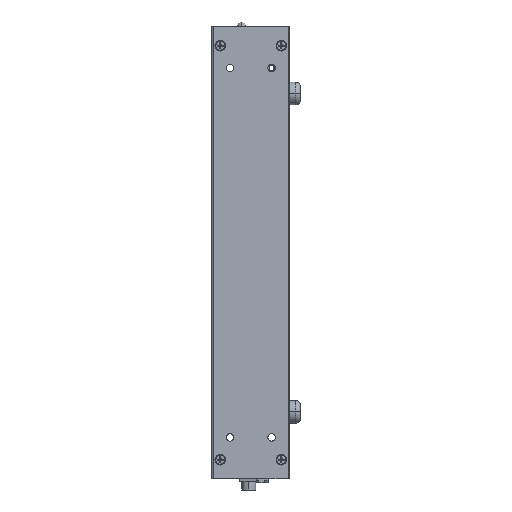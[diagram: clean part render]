
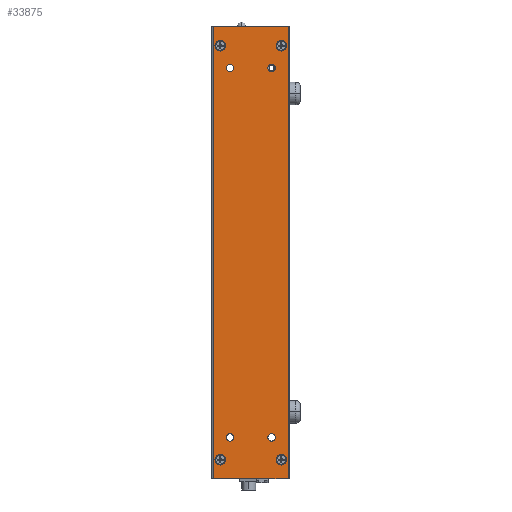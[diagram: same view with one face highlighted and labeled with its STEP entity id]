
A CAD part, left-side view. The second image highlights one B-rep face of the part: STEP entity #33875.
In plain terms, the highlighted planar face has unit normal (-1, 0, 0).
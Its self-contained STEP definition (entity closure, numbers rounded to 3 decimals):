
#4202=DIRECTION('',(0.,1.,0.));
#4203=VECTOR('',#4202,1.65);
#4204=CARTESIAN_POINT('',(-12.06,-1.69,-10.));
#4205=LINE('',#4204,#4203);
#4238=DIRECTION('',(0.,1.,0.));
#4239=VECTOR('',#4238,1.65);
#4240=CARTESIAN_POINT('',(-12.06,-1.69,0.));
#4241=LINE('',#4240,#4239);
#5495=DIRECTION('',(0.,0.,1.));
#5496=VECTOR('',#5495,10.);
#5497=CARTESIAN_POINT('',(-12.06,-0.04,-10.));
#5498=LINE('',#5497,#5496);
#5504=CARTESIAN_POINT('',(-12.06,-1.54,-0.422));
#5505=DIRECTION('',(1.,0.,0.));
#5506=DIRECTION('',(0.,-1.,0.));
#5507=AXIS2_PLACEMENT_3D('',#5504,#5505,#5506);
#5509=CARTESIAN_POINT('',(-12.06,-1.54,-0.422));
#5510=DIRECTION('',(1.,0.,0.));
#5511=DIRECTION('',(0.,1.,0.));
#5512=AXIS2_PLACEMENT_3D('',#5509,#5510,#5511);
#5514=CARTESIAN_POINT('',(-12.06,-0.19,-0.422));
#5515=DIRECTION('',(1.,0.,0.));
#5516=DIRECTION('',(0.,-1.,0.));
#5517=AXIS2_PLACEMENT_3D('',#5514,#5515,#5516);
#5519=CARTESIAN_POINT('',(-12.06,-0.19,-0.422));
#5520=DIRECTION('',(1.,0.,0.));
#5521=DIRECTION('',(0.,1.,0.));
#5522=AXIS2_PLACEMENT_3D('',#5519,#5520,#5521);
#5524=CARTESIAN_POINT('',(-12.06,-1.54,-9.578));
#5525=DIRECTION('',(1.,0.,0.));
#5526=DIRECTION('',(0.,-1.,0.));
#5527=AXIS2_PLACEMENT_3D('',#5524,#5525,#5526);
#5529=CARTESIAN_POINT('',(-12.06,-1.54,-9.578));
#5530=DIRECTION('',(1.,0.,0.));
#5531=DIRECTION('',(0.,1.,0.));
#5532=AXIS2_PLACEMENT_3D('',#5529,#5530,#5531);
#5534=CARTESIAN_POINT('',(-12.06,-0.19,-9.578));
#5535=DIRECTION('',(1.,0.,0.));
#5536=DIRECTION('',(0.,-1.,0.));
#5537=AXIS2_PLACEMENT_3D('',#5534,#5535,#5536);
#5539=CARTESIAN_POINT('',(-12.06,-0.19,-9.578));
#5540=DIRECTION('',(1.,0.,0.));
#5541=DIRECTION('',(0.,1.,0.));
#5542=AXIS2_PLACEMENT_3D('',#5539,#5540,#5541);
#5544=CARTESIAN_POINT('',(-12.06,-1.325,-0.915));
#5545=DIRECTION('',(1.,0.,0.));
#5546=DIRECTION('',(0.,0.,1.));
#5547=AXIS2_PLACEMENT_3D('',#5544,#5545,#5546);
#5549=CARTESIAN_POINT('',(-12.06,-1.325,-0.915));
#5550=DIRECTION('',(1.,0.,0.));
#5551=DIRECTION('',(0.,0.,-1.));
#5552=AXIS2_PLACEMENT_3D('',#5549,#5550,#5551);
#5554=CARTESIAN_POINT('',(-12.06,-0.405,-0.915));
#5555=DIRECTION('',(1.,0.,0.));
#5556=DIRECTION('',(0.,0.,1.));
#5557=AXIS2_PLACEMENT_3D('',#5554,#5555,#5556);
#5559=CARTESIAN_POINT('',(-12.06,-0.405,-0.915));
#5560=DIRECTION('',(1.,0.,0.));
#5561=DIRECTION('',(0.,0.,-1.));
#5562=AXIS2_PLACEMENT_3D('',#5559,#5560,#5561);
#5564=CARTESIAN_POINT('',(-12.06,-1.325,-9.085));
#5565=DIRECTION('',(1.,0.,0.));
#5566=DIRECTION('',(0.,0.,1.));
#5567=AXIS2_PLACEMENT_3D('',#5564,#5565,#5566);
#5569=CARTESIAN_POINT('',(-12.06,-1.325,-9.085));
#5570=DIRECTION('',(1.,0.,0.));
#5571=DIRECTION('',(0.,0.,-1.));
#5572=AXIS2_PLACEMENT_3D('',#5569,#5570,#5571);
#5574=CARTESIAN_POINT('',(-12.06,-0.405,-9.085));
#5575=DIRECTION('',(1.,0.,0.));
#5576=DIRECTION('',(0.,0.,1.));
#5577=AXIS2_PLACEMENT_3D('',#5574,#5575,#5576);
#5579=CARTESIAN_POINT('',(-12.06,-0.405,-9.085));
#5580=DIRECTION('',(1.,0.,0.));
#5581=DIRECTION('',(0.,0.,-1.));
#5582=AXIS2_PLACEMENT_3D('',#5579,#5580,#5581);
#5584=DIRECTION('',(0.,0.,1.));
#5585=VECTOR('',#5584,10.);
#5586=CARTESIAN_POINT('',(-12.06,-1.69,-10.));
#5587=LINE('',#5586,#5585);
#20621=CARTESIAN_POINT('',(-12.06,-1.658,-0.422));
#20622=CARTESIAN_POINT('',(-12.06,-1.423,-0.422));
#20623=VERTEX_POINT('',#20621);
#20624=VERTEX_POINT('',#20622);
#20625=CARTESIAN_POINT('',(-12.06,-0.308,-0.422));
#20626=CARTESIAN_POINT('',(-12.06,-0.073,-0.422));
#20627=VERTEX_POINT('',#20625);
#20628=VERTEX_POINT('',#20626);
#20657=CARTESIAN_POINT('',(-12.06,-1.658,-9.578));
#20658=CARTESIAN_POINT('',(-12.06,-1.423,-9.578));
#20659=VERTEX_POINT('',#20657);
#20660=VERTEX_POINT('',#20658);
#20661=CARTESIAN_POINT('',(-12.06,-0.308,-9.578));
#20662=CARTESIAN_POINT('',(-12.06,-0.073,-9.578));
#20663=VERTEX_POINT('',#20661);
#20664=VERTEX_POINT('',#20662);
#20689=CARTESIAN_POINT('',(-12.06,-1.69,-10.));
#20690=CARTESIAN_POINT('',(-12.06,-1.69,0.));
#20691=VERTEX_POINT('',#20689);
#20692=VERTEX_POINT('',#20690);
#20701=CARTESIAN_POINT('',(-12.06,-0.04,0.));
#20702=VERTEX_POINT('',#20701);
#20703=CARTESIAN_POINT('',(-12.06,-0.04,-10.));
#20704=VERTEX_POINT('',#20703);
#20705=CARTESIAN_POINT('',(-12.06,-1.325,-0.832));
#20706=CARTESIAN_POINT('',(-12.06,-1.325,-0.998));
#20707=VERTEX_POINT('',#20705);
#20708=VERTEX_POINT('',#20706);
#20709=CARTESIAN_POINT('',(-12.06,-0.405,-0.832));
#20710=CARTESIAN_POINT('',(-12.06,-0.405,-0.998));
#20711=VERTEX_POINT('',#20709);
#20712=VERTEX_POINT('',#20710);
#20713=CARTESIAN_POINT('',(-12.06,-1.325,-9.002));
#20714=CARTESIAN_POINT('',(-12.06,-1.325,-9.168));
#20715=VERTEX_POINT('',#20713);
#20716=VERTEX_POINT('',#20714);
#20717=CARTESIAN_POINT('',(-12.06,-0.405,-9.002));
#20718=CARTESIAN_POINT('',(-12.06,-0.405,-9.168));
#20719=VERTEX_POINT('',#20717);
#20720=VERTEX_POINT('',#20718);
#33815=CARTESIAN_POINT('',(-12.06,-1.73,0.));
#33816=DIRECTION('',(-1.,0.,0.));
#33817=DIRECTION('',(0.,1.,0.));
#33818=AXIS2_PLACEMENT_3D('',#33815,#33816,#33817);
#33819=PLANE('',#33818);
#33820=ORIENTED_EDGE('',*,*,#33809,.T.);
#33821=ORIENTED_EDGE('',*,*,#30747,.F.);
#33823=ORIENTED_EDGE('',*,*,#33822,.F.);
#33824=ORIENTED_EDGE('',*,*,#30694,.T.);
#33825=EDGE_LOOP('',(#33820,#33821,#33823,#33824));
#33826=FACE_OUTER_BOUND('',#33825,.F.);
#33828=ORIENTED_EDGE('',*,*,#33827,.F.);
#33830=ORIENTED_EDGE('',*,*,#33829,.F.);
#33831=EDGE_LOOP('',(#33828,#33830));
#33832=FACE_BOUND('',#33831,.F.);
#33834=ORIENTED_EDGE('',*,*,#33833,.F.);
#33836=ORIENTED_EDGE('',*,*,#33835,.F.);
#33837=EDGE_LOOP('',(#33834,#33836));
#33838=FACE_BOUND('',#33837,.F.);
#33840=ORIENTED_EDGE('',*,*,#33839,.F.);
#33842=ORIENTED_EDGE('',*,*,#33841,.F.);
#33843=EDGE_LOOP('',(#33840,#33842));
#33844=FACE_BOUND('',#33843,.F.);
#33846=ORIENTED_EDGE('',*,*,#33845,.F.);
#33848=ORIENTED_EDGE('',*,*,#33847,.F.);
#33849=EDGE_LOOP('',(#33846,#33848));
#33850=FACE_BOUND('',#33849,.F.);
#33852=ORIENTED_EDGE('',*,*,#33851,.F.);
#33854=ORIENTED_EDGE('',*,*,#33853,.F.);
#33855=EDGE_LOOP('',(#33852,#33854));
#33856=FACE_BOUND('',#33855,.F.);
#33858=ORIENTED_EDGE('',*,*,#33857,.F.);
#33860=ORIENTED_EDGE('',*,*,#33859,.F.);
#33861=EDGE_LOOP('',(#33858,#33860));
#33862=FACE_BOUND('',#33861,.F.);
#33864=ORIENTED_EDGE('',*,*,#33863,.F.);
#33866=ORIENTED_EDGE('',*,*,#33865,.F.);
#33867=EDGE_LOOP('',(#33864,#33866));
#33868=FACE_BOUND('',#33867,.F.);
#33870=ORIENTED_EDGE('',*,*,#33869,.F.);
#33872=ORIENTED_EDGE('',*,*,#33871,.F.);
#33873=EDGE_LOOP('',(#33870,#33872));
#33874=FACE_BOUND('',#33873,.F.);
#33875=ADVANCED_FACE('',(#33826,#33832,#33838,#33844,#33850,#33856,#33862,
#33868,#33874),#33819,.T.);
#5508=CIRCLE('',#5507,0.118);
#5513=CIRCLE('',#5512,0.118);
#5518=CIRCLE('',#5517,0.118);
#5523=CIRCLE('',#5522,0.118);
#5528=CIRCLE('',#5527,0.118);
#5533=CIRCLE('',#5532,0.118);
#5538=CIRCLE('',#5537,0.118);
#5543=CIRCLE('',#5542,0.118);
#5548=CIRCLE('',#5547,0.083);
#5553=CIRCLE('',#5552,0.083);
#5558=CIRCLE('',#5557,0.083);
#5563=CIRCLE('',#5562,0.083);
#5568=CIRCLE('',#5567,0.083);
#5573=CIRCLE('',#5572,0.083);
#5578=CIRCLE('',#5577,0.083);
#5583=CIRCLE('',#5582,0.083);
#30694=EDGE_CURVE('',#20691,#20704,#4205,.T.);
#30747=EDGE_CURVE('',#20692,#20702,#4241,.T.);
#33809=EDGE_CURVE('',#20704,#20702,#5498,.T.);
#33822=EDGE_CURVE('',#20691,#20692,#5587,.T.);
#33827=EDGE_CURVE('',#20623,#20624,#5508,.T.);
#33829=EDGE_CURVE('',#20624,#20623,#5513,.T.);
#33833=EDGE_CURVE('',#20627,#20628,#5518,.T.);
#33835=EDGE_CURVE('',#20628,#20627,#5523,.T.);
#33839=EDGE_CURVE('',#20659,#20660,#5528,.T.);
#33841=EDGE_CURVE('',#20660,#20659,#5533,.T.);
#33845=EDGE_CURVE('',#20663,#20664,#5538,.T.);
#33847=EDGE_CURVE('',#20664,#20663,#5543,.T.);
#33851=EDGE_CURVE('',#20707,#20708,#5548,.T.);
#33853=EDGE_CURVE('',#20708,#20707,#5553,.T.);
#33857=EDGE_CURVE('',#20711,#20712,#5558,.T.);
#33859=EDGE_CURVE('',#20712,#20711,#5563,.T.);
#33863=EDGE_CURVE('',#20715,#20716,#5568,.T.);
#33865=EDGE_CURVE('',#20716,#20715,#5573,.T.);
#33869=EDGE_CURVE('',#20719,#20720,#5578,.T.);
#33871=EDGE_CURVE('',#20720,#20719,#5583,.T.);
